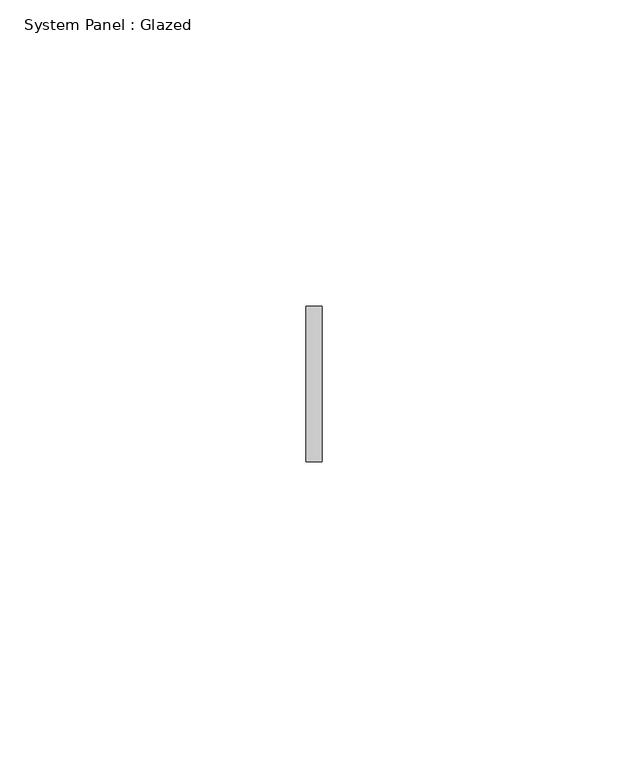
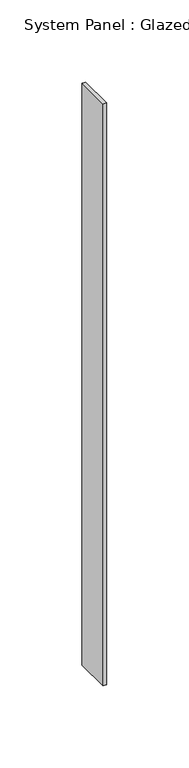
"""IFC4 building model written with IfcOpenShell, lengths in millimetres: plate geometry, System Panel : Glazed."""

from ifc_helpers import new_model, si_unit, origin, origin_with_axes, place, context, project, spatial, polyline, outline, extrude, source, transform, mapped, element, save


def system_panel_glazed_f8ef8577(model_context):
    return source(origin(), model_context, "Body", "SweptSolid", [
        extrude(outline(polyline([(1.3231587, -44.45), (-1.3231587, -44.45), (-1.3231587, -19.05), (1.3231587, -19.05), (1.3231587, -44.45)])), origin_with_axes(), (0.0, 0.0, 1.0), 431.8),
    ])


if __name__ == "__main__":
    model = new_model("IFC4")
    model_context = context("Model", 3, world=origin())
    ifc_project = project(units=[si_unit("LENGTHUNIT", "METRE", prefix="MILLI")], contexts=[model_context])
    site = spatial("IfcSite", under=ifc_project)
    building = spatial("IfcBuilding", under=site)
    placement = place(None, origin())
    system_panel_glazed_shape = system_panel_glazed_f8ef8577(model_context)
    element("IfcPlate", 1, ObjectType="System Panel : Glazed", at=placement, inside=building, context=model_context, shape_type="MappedRepresentation", body=[
        mapped(system_panel_glazed_shape, transform((0.0, 0.0, 0.0), x_axis=(1.0, 0.0, 0.0), y_axis=(0.0, 1.0, 0.0), z_axis=(0.0, 0.0, 1.0))),
    ])
    save(model, "model.ifc")
